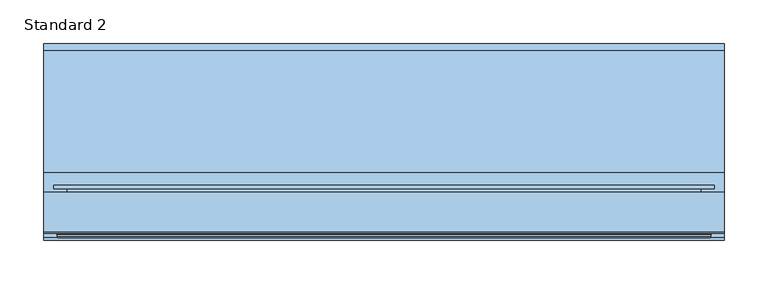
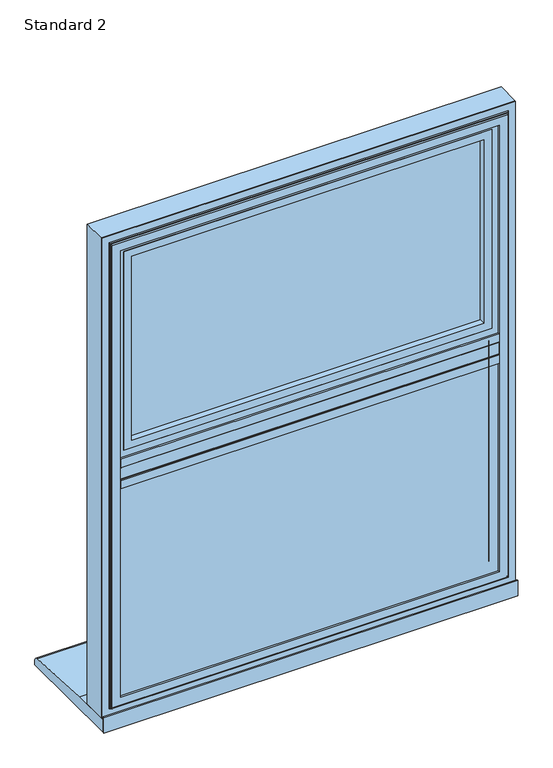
"""IFC4 building model written with IfcOpenShell, lengths in millimetres: window geometry, SMARTS_AlithermHeritage : Standard 2."""

from ifc_helpers import new_model, si_unit, point, frame, frame_2d, origin, place, context, project, spatial, polyline, circle_curve, ellipse_curve, trimmed, segment, composite_curve, outline, extrude, faceted_brep, source, transform, mapped, element, save
from ifc_brep_helpers import plane_surface, cylinder_surface, revolved_surface, advanced_brep


def standard_2_687e85b9(model_context):
    return source(origin(), model_context, "Body", "SolidModel", [
        extrude(outline(polyline([(372.3058544, 95.2798432), (372.3058544, 47.279476), (-372.3058544, 47.279476), (-372.3058544, 95.2798432), (372.3058544, 95.2798432)])), frame((0.0, 0.0, 1098.8058544), z_axis=(0.0, 0.0, 1.0), x_axis=(1.0, 0.0, 0.0)), (0.0, 0.0, 1.0), 27.3882911),
        extrude(outline(composite_curve([segment(polyline([(47.279476, 1083.5), (43.2798432, 1083.5), (43.2798432, 1099.5)]), True, "CONTINUOUS"), segment(trimmed(circle_curve(frame_2d((44.2798432, 1099.5)), 1.0), [point((43.2798432, 1099.5))], [point((44.2798432, 1100.5))], False, "CARTESIAN"), True, "CONTINUOUS"), segment(polyline([(44.2798432, 1100.5), (45.7798432, 1100.5), (45.7798432, 1124.5), (44.2798432, 1124.5)]), True, "CONTINUOUS"), segment(trimmed(circle_curve(frame_2d((44.2798432, 1125.5)), 1.0), [point((44.2798432, 1124.5))], [point((43.2798432, 1125.5))], False, "CARTESIAN"), True, "CONTINUOUS"), segment(polyline([(43.2798432, 1125.5), (43.2798432, 1141.5), (47.279476, 1141.5), (47.279476, 1083.5)]), True, "CONTINUOUS")], self_intersect=False)), frame((-357.0, 0.0, 0.0), z_axis=(1.0, 0.0, 0.0), x_axis=(0.0, 1.0, 0.0)), (0.0, 0.0, 1.0), 714.0),
        extrude(outline(polyline([(-367.0, 75.2798432), (367.0, 75.2798432), (367.0, 71.2798432), (-367.0, 71.2798432), (-367.0, 75.2798432)])), frame((0.0, 0.0, 658.0), z_axis=(0.0, 0.0, 1.0), x_axis=(1.0, 0.0, 0.0)), (0.0, 0.0, 1.0), 435.5),
        extrude(outline(polyline([(-367.0, 55.2798432), (367.0, 55.2798432), (367.0, 51.2798432), (-367.0, 51.2798432), (-367.0, 55.2798432)])), frame((0.0, 0.0, 658.0), z_axis=(0.0, 0.0, 1.0), x_axis=(1.0, 0.0, 0.0)), (0.0, 0.0, 1.0), 435.5),
        extrude(outline(polyline([(1093.5, -367.0), (658.0, -367.0), (658.0, 367.0), (1093.5, 367.0), (1093.5, -367.0)]), holes=[polyline([(1083.5, 357.0), (668.0, 357.0), (668.0, -357.0), (1083.5, -357.0), (1083.5, 357.0)])]), frame((0.0, 55.2798432, 0.0), z_axis=(0.0, 1.0, 0.0), x_axis=(0.0, 0.0, 1.0)), (0.0, 0.0, 1.0), 16.0),
        faceted_brep([(366.8148849, 95.2798432, 1093.3148849), (357.0, 78.2798098, 1083.5), (-357.0, 78.2798098, 1083.5), (-366.8148849, 95.2798432, 1093.3148849), (372.3702676, 78.2798098, 1098.8702676), (372.3702676, 95.2798432, 1098.8702676), (-372.3702676, 95.2798432, 1098.8702676), (-372.3702676, 78.2798098, 1098.8702676), (-372.3702676, 78.2798098, 652.6297324), (-372.3702676, 95.2798432, 652.6297324), (372.3702676, 95.2798432, 652.6297324), (372.3702676, 78.2798098, 652.6297324), (-366.8148849, 95.2798432, 658.1851151), (366.8148849, 95.2798432, 658.1851151), (357.0, 78.2798098, 668.0), (-357.0, 78.2798098, 668.0)], [[[0, 1, 2, 3]], [[4, 5, 6, 7]], [[8, 9, 10, 11]], [[5, 10, 9, 6], [3, 12, 13, 0]], [[7, 8, 11, 4], [1, 14, 15, 2]], [[3, 2, 15, 12]], [[7, 6, 9, 8]], [[12, 15, 14, 13]], [[13, 14, 1, 0]], [[11, 10, 5, 4]]]),
        extrude(outline(polyline([(1590.0, 390.0), (1590.0, -390.0), (635.0, -390.0), (635.0, 390.0), (1590.0, 390.0)]), holes=[polyline([(652.7000182, 372.2999818), (652.7000182, -372.2999818), (1572.2999818, -372.2999818), (1572.2999818, 372.2999818), (652.7000182, 372.2999818)])]), frame((0.0, 50.279857, 0.0), z_axis=(0.0, 1.0, 0.0), x_axis=(0.0, 0.0, 1.0)), (0.0, 0.0, 1.0), 44.9999962),
        advanced_brep(
        [(357.0, 43.2798432, 1557.0), (357.0, 47.2798432, 1557.0), (357.0, 47.2798432, 668.0), (357.0, 43.2798432, 668.0), (390.0, 50.279857, 1590.0), (390.0, 48.279857, 1590.0), (390.0, 48.279857, 635.0), (390.0, 50.279857, 635.0), (372.4999818, 43.2798432, 1572.4999818), (-372.4999818, 43.2798432, 1572.4999818), (-372.4999818, 43.2798432, 652.5000182), (372.4999818, 43.2798432, 652.5000182), (-357.0, 43.2798432, 668.0), (-357.0, 43.2798432, 1557.0), (-390.0, 50.279857, 1590.0), (-390.0, 48.279857, 1590.0), (-390.0, 50.279857, 635.0), (372.2999818, 50.279857, 1572.2999818), (-372.2999818, 50.279857, 1572.2999818), (-372.2999818, 50.279857, 652.7000182), (372.2999818, 50.279857, 652.7000182), (-357.0, 47.2798432, 1557.0), (-357.0, 47.2798432, 668.0), (-390.0, 48.279857, 635.0), (-372.2999818, 47.2798432, 1572.2999818), (372.2999818, 47.2798432, 1572.2999818), (372.2999818, 47.2798432, 652.7000182), (374.4999818, 46.779857, 650.5000182), (374.4999818, 45.2798432, 650.5000182), (-374.4999818, 45.2798432, 650.5000182), (-374.4999818, 46.779857, 650.5000182), (374.4999818, 46.779857, 1574.4999818), (374.4999818, 45.2798432, 1574.4999818), (-372.2999818, 47.2798432, 652.7000182), (-374.4999818, 45.2798432, 1574.4999818), (-374.4999818, 46.779857, 1574.4999818), (375.9999818, 48.279857, 1575.9999818), (375.9999818, 48.279857, 649.0000182), (-375.9999818, 48.279857, 649.0000182), (-375.9999818, 48.279857, 1575.9999818)],
        [
            (0, 1),
            (1, 2),
            (2, 3),
            (3, 0),
            (4, 5),
            (5, 6),
            (6, 7),
            (7, 4),
            (8, 9),
            (9, 10),
            (10, 11),
            (11, 8),
            (3, 12),
            (12, 13),
            (13, 0),
            (14, 15),
            (15, 5),
            (4, 14),
            (7, 16),
            (16, 14),
            (17, 18),
            (18, 19),
            (19, 20),
            (20, 17),
            (13, 21),
            (21, 1),
            (2, 22),
            (22, 12),
            (22, 21),
            (6, 23),
            (23, 16),
            (23, 15),
            (24, 18),
            (17, 25),
            (25, 24),
            (20, 26),
            (26, 25),
            (27, 28),
            (28, 29),
            (29, 30),
            (30, 27),
            (31, 32),
            (32, 28),
            (27, 31),
            (19, 33),
            (33, 26),
            (24, 33),
            (29, 34),
            (34, 35),
            (35, 30),
            (34, 32),
            (31, 35),
            (36, 31, ellipse_curve(frame((375.9999818, 46.779857, 1575.9999818), z_axis=(-0.7071067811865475, 0.0, 0.7071067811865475), x_axis=(-0.7071067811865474, 0.0, -0.7071067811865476)), 2.1213203, 1.5)),
            (27, 37, ellipse_curve(frame((375.9999818, 46.779857, 649.0000182), z_axis=(-0.7071067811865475, 0.0, -0.7071067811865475), x_axis=(0.7071067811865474, 0.0, -0.7071067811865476)), 2.1213203, 1.5)),
            (37, 36),
            (30, 38, ellipse_curve(frame((-375.9999818, 46.779857, 649.0000182), z_axis=(-0.7071067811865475, 0.0, 0.7071067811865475), x_axis=(-0.7071067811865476, 0.0, -0.7071067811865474)), 2.1213203, 1.5)),
            (38, 37),
            (35, 39, ellipse_curve(frame((-375.9999818, 46.779857, 1575.9999818), z_axis=(0.7071067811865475, 0.0, 0.7071067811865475), x_axis=(-0.7071067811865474, 0.0, 0.7071067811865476)), 2.1213203, 1.5)),
            (39, 38),
            (36, 39),
            (32, 8, ellipse_curve(frame((372.4999818, 45.2798432, 1572.4999818), z_axis=(0.7071067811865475, 0.0, -0.7071067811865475), x_axis=(0.7071067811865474, 0.0, 0.7071067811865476)), 2.8284271, 2.0)),
            (11, 28, ellipse_curve(frame((372.4999818, 45.2798432, 652.5000182), z_axis=(0.7071067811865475, 0.0, 0.7071067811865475), x_axis=(-0.7071067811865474, 0.0, 0.7071067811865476)), 2.8284271, 2.0)),
            (10, 29, ellipse_curve(frame((-372.4999818, 45.2798432, 652.5000182), z_axis=(0.7071067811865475, 0.0, -0.7071067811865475), x_axis=(0.7071067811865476, 0.0, 0.7071067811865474)), 2.8284271, 2.0)),
            (9, 34, ellipse_curve(frame((-372.4999818, 45.2798432, 1572.4999818), z_axis=(-0.7071067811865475, 0.0, -0.7071067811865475), x_axis=(0.7071067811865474, 0.0, -0.7071067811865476)), 2.8284271, 2.0)),
        ],
        [
            plane_surface(frame((357.0, 47.2798432, 1557.0), z_axis=(-1.0, 0.0, 0.0), x_axis=(0.0, 0.0, -1.0))),
            plane_surface(frame((390.0, 48.279857, 1590.0), z_axis=(1.0, 0.0, 0.0), x_axis=(0.0, 0.0, -1.0))),
            plane_surface(frame((-357.0, 43.2798432, 1557.0), z_axis=(0.0, -1.0, 0.0), x_axis=(1.0, 0.0, 0.0))),
            plane_surface(frame((-390.0, 48.279857, 1590.0), z_axis=(0.0, 0.0, 1.0), x_axis=(1.0, 0.0, 0.0))),
            plane_surface(frame((-390.0, 50.279857, 1590.0), z_axis=(0.0, 1.0, 0.0), x_axis=(1.0, 0.0, 0.0))),
            plane_surface(frame((-357.0, 47.2798432, 1557.0), z_axis=(0.0, 0.0, -1.0), x_axis=(1.0, 0.0, 0.0))),
            plane_surface(frame((357.0, 47.2798432, 668.0), z_axis=(0.0, 0.0, 1.0), x_axis=(-1.0, 0.0, 0.0))),
            plane_surface(frame((-357.0, 47.2798432, 668.0), z_axis=(1.0, 0.0, 0.0), x_axis=(0.0, 0.0, 1.0))),
            plane_surface(frame((390.0, 48.279857, 635.0), z_axis=(0.0, 0.0, -1.0), x_axis=(-1.0, 0.0, 0.0))),
            plane_surface(frame((-390.0, 48.279857, 635.0), z_axis=(-1.0, 0.0, 0.0), x_axis=(0.0, 0.0, 1.0))),
            plane_surface(frame((-372.2999818, 50.279857, 1572.2999818), z_axis=(0.0, 0.0, -1.0), x_axis=(1.0, 0.0, 0.0))),
            plane_surface(frame((372.2999818, 50.279857, 1572.2999818), z_axis=(-1.0, 0.0, 0.0), x_axis=(0.0, 0.0, -1.0))),
            plane_surface(frame((374.4999818, 45.2798432, 650.5000182), z_axis=(0.0, 0.0, -1.0), x_axis=(-1.0, 0.0, 0.0))),
            plane_surface(frame((374.4999818, 45.2798432, 1574.4999818), z_axis=(1.0, 0.0, 0.0), x_axis=(0.0, 0.0, -1.0))),
            plane_surface(frame((372.2999818, 50.279857, 652.7000182), z_axis=(0.0, 0.0, 1.0), x_axis=(-1.0, 0.0, 0.0))),
            plane_surface(frame((-372.2999818, 50.279857, 652.7000182), z_axis=(1.0, 0.0, 0.0), x_axis=(0.0, 0.0, 1.0))),
            plane_surface(frame((-374.4999818, 45.2798432, 650.5000182), z_axis=(-1.0, 0.0, 0.0), x_axis=(0.0, 0.0, 1.0))),
            plane_surface(frame((-372.2999818, 47.2798432, 1572.2999818), z_axis=(0.0, 1.0, 0.0), x_axis=(1.0, 0.0, 0.0))),
            plane_surface(frame((-374.4999818, 45.2798432, 1574.4999818), z_axis=(0.0, 0.0, 1.0), x_axis=(1.0, 0.0, 0.0))),
            revolved_surface(polyline([(374.4999818, 46.779857, 647.5000182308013), (374.4999818, 46.779857, 1577.4999817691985)]), (375.9999818, 46.779857, 1590.0), (0.0, 0.0, -1.0)),
            revolved_surface(polyline([(-377.4999817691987, 46.779857, 650.5000182), (377.49998176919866, 46.779857, 650.5000182)]), (390.0, 46.779857, 649.0000182), (-1.0, 0.0, 0.0)),
            revolved_surface(polyline([(-374.4999818, 46.779857, 1577.4999817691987), (-374.4999818, 46.779857, 647.5000182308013)]), (-375.9999818, 46.779857, 635.0), (0.0, 0.0, 1.0)),
            revolved_surface(polyline([(377.4999817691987, 46.779857, 1574.4999818), (-377.49998176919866, 46.779857, 1574.4999818)]), (-390.0, 46.779857, 1575.9999818), (1.0, 0.0, 0.0)),
            plane_surface(frame((-375.9999818, 48.279857, 1575.9999818), z_axis=(0.0, -1.0, 0.0), x_axis=(1.0, 0.0, 0.0))),
            cylinder_surface(frame((372.4999818, 45.2798432, 1590.0), z_axis=(0.0, 0.0, 1.0), x_axis=(-1.0, 0.0, 0.0)), 2.0),
            cylinder_surface(frame((390.0, 45.2798432, 652.5000182), z_axis=(1.0, 0.0, 0.0), x_axis=(0.0, 0.0, 1.0)), 2.0),
            cylinder_surface(frame((-372.4999818, 45.2798432, 635.0), z_axis=(0.0, 0.0, -1.0), x_axis=(1.0, 0.0, 0.0)), 2.0),
            cylinder_surface(frame((-390.0, 45.2798432, 1572.4999818), z_axis=(-1.0, 0.0, 0.0), x_axis=(0.0, 0.0, -1.0)), 2.0),
        ],
        [
            (0, [[1, 2, 3, 4]]),
            (1, [[5, 6, 7, 8]]),
            (2, [[9, 10, 11, 12], [13, 14, 15, -4]]),
            (3, [[16, 17, -5, 18]]),
            (4, [[19, 20, -18, -8], [21, 22, 23, 24]]),
            (5, [[25, 26, -1, -15]]),
            (6, [[-3, 27, 28, -13]]),
            (7, [[-28, 29, -25, -14]]),
            (8, [[-7, 30, 31, -19]]),
            (9, [[-31, 32, -16, -20]]),
            (10, [[33, -21, 34, 35]]),
            (11, [[-34, -24, 36, 37]]),
            (12, [[38, 39, 40, 41]]),
            (13, [[42, 43, -38, 44]]),
            (14, [[-36, -23, 45, 46]]),
            (15, [[-45, -22, -33, 47]]),
            (16, [[-40, 48, 49, 50]]),
            (17, [[-46, -47, -35, -37], [-26, -29, -27, -2]]),
            (18, [[-49, 51, -42, 52]]),
            (19, [[53, -44, 54, 55]]),
            (20, [[-54, -41, 56, 57]]),
            (21, [[-56, -50, 58, 59]]),
            (22, [[-58, -52, -53, 60]]),
            (23, [[-17, -32, -30, -6], [-57, -59, -60, -55]]),
            (24, [[61, -12, 62, -43]]),
            (25, [[-62, -11, 63, -39]]),
            (26, [[-63, -10, 64, -48]]),
            (27, [[-64, -9, -61, -51]]),
        ],
    ),
        extrude(outline(polyline([(-343.5, 89.2798432), (343.5, 89.2798432), (343.5, 85.2798432), (-343.5, 85.2798432), (-343.5, 89.2798432)])), frame((0.0, 0.0, 1155.0), z_axis=(0.0, 0.0, 1.0), x_axis=(1.0, 0.0, 0.0)), (0.0, 0.0, 1.0), 388.5),
        extrude(outline(polyline([(-343.5, 69.2798432), (343.5, 69.2798432), (343.5, 65.2798432), (-343.5, 65.2798432), (-343.5, 69.2798432)])), frame((0.0, 0.0, 1155.0), z_axis=(0.0, 0.0, 1.0), x_axis=(1.0, 0.0, 0.0)), (0.0, 0.0, 1.0), 388.5),
        extrude(outline(polyline([(1543.5, -343.5), (1155.0, -343.5), (1155.0, 343.5), (1543.5, 343.5), (1543.5, -343.5)]), holes=[polyline([(1533.5, 333.5), (1165.0, 333.5), (1165.0, -333.5), (1533.5, -333.5), (1533.5, 333.5)])]), frame((0.0, 69.2798432, 0.0), z_axis=(0.0, 1.0, 0.0), x_axis=(0.0, 0.0, 1.0)), (0.0, 0.0, 1.0), 16.0),
        extrude(outline(polyline([(1547.0052956, -347.0052956), (1151.4947044, -347.0052956), (1151.4947044, 347.0052956), (1547.0052956, 347.0052956), (1547.0052956, -347.0052956)]), holes=[polyline([(1532.0, 332.0), (1166.5, 332.0), (1166.5, -332.0), (1532.0, -332.0), (1532.0, 332.0)])]), frame((0.0, 51.2798432, 0.0), z_axis=(0.0, 1.0, 0.0), x_axis=(0.0, 0.0, 1.0)), (0.0, 0.0, 1.0), 11.3),
        extrude(outline(polyline([(1135.8548042, -362.6451958), (1135.8548042, 362.6451958), (1562.6451958, 362.6451958), (1562.6451958, -362.6451958), (1135.8548042, -362.6451958)]), holes=[polyline([(1547.0, -347.0), (1547.0, 347.0), (1151.5, 347.0), (1151.5, -347.0), (1547.0, -347.0)])]), frame((0.0, 51.2798432, 0.0), z_axis=(0.0, 1.0, 0.0), x_axis=(0.0, 0.0, 1.0)), (0.0, 0.0, 1.0), 41.6),
        advanced_brep(
        [(-332.0, 98.0798432, 1532.0), (-332.0, 92.8798432, 1532.0), (-332.0, 92.8798432, 1166.5), (-332.0, 98.0798432, 1166.5), (332.0, 92.8798432, 1166.5), (332.0, 98.0798432, 1166.5), (332.0, 92.8798432, 1532.0), (332.0, 98.0798432, 1532.0), (-378.2, 99.2798432, 1578.2), (-378.2, 103.2798432, 1578.2), (-378.2, 103.2798432, 1120.3), (-378.2, 99.2798432, 1120.3), (378.2, 103.2798432, 1120.3), (378.2, 99.2798432, 1120.3), (378.2, 103.2798432, 1578.2), (378.2, 99.2798432, 1578.2), (-363.1467657, 99.2798432, 1563.1467657), (363.1467657, 99.2798432, 1563.1467657), (363.1467657, 99.2798432, 1135.3532343), (-363.1467657, 99.2798432, 1135.3532343), (-349.2, 103.2798432, 1149.3), (349.2, 103.2798432, 1149.3), (349.2, 103.2798432, 1549.2), (-349.2, 103.2798432, 1549.2), (-363.1467657, 92.8798432, 1563.1467657), (-363.1467657, 92.8798432, 1135.3532343), (363.1467657, 92.8798432, 1135.3532343), (363.1467657, 92.8798432, 1563.1467657), (-347.2, 101.2798432, 1547.2), (-347.2, 100.0798432, 1547.2), (-347.2, 100.0798432, 1151.3), (-347.2, 101.2798432, 1151.3), (-345.2, 98.0798432, 1545.2), (-345.2, 98.0798432, 1153.3), (347.2, 100.0798432, 1151.3), (347.2, 101.2798432, 1151.3), (345.2, 98.0798432, 1153.3), (347.2, 100.0798432, 1547.2), (347.2, 101.2798432, 1547.2), (345.2, 98.0798432, 1545.2)],
        [
            (0, 1),
            (1, 2),
            (2, 3),
            (3, 0),
            (2, 4),
            (4, 5),
            (5, 3),
            (4, 6),
            (6, 7),
            (7, 5),
            (6, 1),
            (0, 7),
            (8, 9),
            (9, 10),
            (10, 11),
            (11, 8),
            (10, 12),
            (12, 13),
            (13, 11),
            (12, 14),
            (14, 15),
            (15, 13),
            (15, 8),
            (16, 17),
            (17, 18),
            (18, 19),
            (19, 16),
            (14, 9),
            (20, 21),
            (21, 22),
            (22, 23),
            (23, 20),
            (24, 16),
            (19, 25),
            (25, 24),
            (18, 26),
            (26, 25),
            (17, 27),
            (27, 26),
            (27, 24),
            (28, 29),
            (29, 30),
            (30, 31),
            (31, 28),
            (29, 32, ellipse_curve(frame((-345.2, 100.0798432, 1545.2), z_axis=(0.7071067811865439, 0.0, 0.7071067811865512), x_axis=(0.7071067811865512, 0.0, -0.7071067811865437)), 2.8284271, 2.0)),
            (32, 33),
            (33, 30, ellipse_curve(frame((-345.2, 100.0798432, 1153.3), z_axis=(0.7071067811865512, 0.0, -0.7071067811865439), x_axis=(-0.7071067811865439, 0.0, -0.707106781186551)), 2.8284271, 2.0)),
            (30, 34),
            (34, 35),
            (35, 31),
            (33, 36),
            (36, 34, ellipse_curve(frame((345.2, 100.0798432, 1153.3), z_axis=(0.7071067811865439, 0.0, 0.7071067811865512), x_axis=(0.707106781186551, 0.0, -0.7071067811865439)), 2.8284271, 2.0)),
            (34, 37),
            (37, 38),
            (38, 35),
            (36, 39),
            (39, 37, ellipse_curve(frame((345.2, 100.0798432, 1545.2), z_axis=(-0.7071067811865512, 0.0, 0.7071067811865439), x_axis=(0.7071067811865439, 0.0, 0.707106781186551)), 2.8284271, 2.0)),
            (32, 39),
            (37, 29),
            (28, 38),
            (23, 28, ellipse_curve(frame((-349.2, 101.2798432, 1549.2), z_axis=(-0.7071067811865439, 0.0, -0.7071067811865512), x_axis=(-0.7071067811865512, 0.0, 0.7071067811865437)), 2.8284271, 2.0)),
            (31, 20, ellipse_curve(frame((-349.2, 101.2798432, 1149.3), z_axis=(-0.7071067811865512, 0.0, 0.7071067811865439), x_axis=(0.7071067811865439, 0.0, 0.707106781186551)), 2.8284271, 2.0)),
            (35, 21, ellipse_curve(frame((349.2, 101.2798432, 1149.3), z_axis=(-0.7071067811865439, 0.0, -0.7071067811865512), x_axis=(-0.707106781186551, 0.0, 0.7071067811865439)), 2.8284271, 2.0)),
            (38, 22, ellipse_curve(frame((349.2, 101.2798432, 1549.2), z_axis=(0.7071067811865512, 0.0, -0.7071067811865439), x_axis=(-0.7071067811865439, 0.0, -0.707106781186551)), 2.8284271, 2.0)),
        ],
        [
            plane_surface(frame((-332.0, 92.8798432, 1532.0), z_axis=(1.0, 0.0, 0.0), x_axis=(0.0, 0.0, -1.0))),
            plane_surface(frame((-332.0, 92.8798432, 1166.5), z_axis=(0.0, 0.0, 1.0), x_axis=(1.0, 0.0, 0.0))),
            plane_surface(frame((332.0, 92.8798432, 1166.5), z_axis=(-1.0, 0.0, 0.0), x_axis=(0.0, 0.0, 1.0))),
            plane_surface(frame((332.0, 92.8798432, 1532.0), z_axis=(0.0, 0.0, -1.0), x_axis=(-1.0, 0.0, 0.0))),
            plane_surface(frame((-378.2, 103.2798432, 1578.2), z_axis=(-1.0, 0.0, 0.0), x_axis=(0.0, 0.0, -1.0))),
            plane_surface(frame((-378.2, 103.2798432, 1120.3), z_axis=(0.0, 0.0, -1.0), x_axis=(1.0, 0.0, 0.0))),
            plane_surface(frame((378.2, 103.2798432, 1120.3), z_axis=(1.0, 0.0, 0.0), x_axis=(0.0, 0.0, 1.0))),
            plane_surface(frame((378.2, 99.2798432, 1578.2), z_axis=(0.0, -1.0, 0.0), x_axis=(-1.0, 0.0, 0.0))),
            plane_surface(frame((378.2, 103.2798432, 1578.2), z_axis=(0.0, 0.0, 1.0), x_axis=(-1.0, 0.0, 0.0))),
            plane_surface(frame((349.2, 103.2798432, 1549.2), z_axis=(0.0, 1.0, 0.0), x_axis=(-1.0, 0.0, 0.0))),
            plane_surface(frame((-363.1467657, 99.2798432, 1563.1467657), z_axis=(-1.0, 0.0, 0.0), x_axis=(0.0, 0.0, -1.0))),
            plane_surface(frame((-363.1467657, 99.2798432, 1135.3532343), z_axis=(0.0, 0.0, -1.0), x_axis=(1.0, 0.0, 0.0))),
            plane_surface(frame((363.1467657, 99.2798432, 1135.3532343), z_axis=(1.0, 0.0, 0.0), x_axis=(0.0, 0.0, 1.0))),
            plane_surface(frame((363.1467657, 92.8798432, 1563.1467657), z_axis=(0.0, -1.0, 0.0), x_axis=(-1.0, 0.0, 0.0))),
            plane_surface(frame((363.1467657, 99.2798432, 1563.1467657), z_axis=(0.0, 0.0, 1.0), x_axis=(-1.0, 0.0, 0.0))),
            plane_surface(frame((-347.2, 100.0798432, 1547.2), z_axis=(1.0, 0.0, 0.0), x_axis=(0.0, 0.0, -1.0))),
            revolved_surface(polyline([(-347.2, 100.0798432, 1151.3), (-347.2, 100.0798432, 1547.2)]), (-345.2, 100.0798432, 1557.0), (0.0, 0.0, -1.0)),
            plane_surface(frame((-347.2, 100.0798432, 1151.3), z_axis=(0.0, 0.0, 1.0), x_axis=(1.0, 0.0, 0.0))),
            revolved_surface(polyline([(347.20000000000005, 100.0798432, 1151.3), (-347.2, 100.0798432, 1151.3)]), (-357.0, 100.0798432, 1153.3), (1.0, 0.0, 0.0)),
            plane_surface(frame((347.2, 100.0798432, 1151.3), z_axis=(-1.0, 0.0, 0.0), x_axis=(0.0, 0.0, 1.0))),
            revolved_surface(polyline([(347.2, 100.0798432, 1547.2), (347.2, 100.0798432, 1151.3)]), (345.2, 100.0798432, 1141.5), (0.0, 0.0, 1.0)),
            plane_surface(frame((332.0, 98.0798432, 1532.0), z_axis=(0.0, 1.0, 0.0), x_axis=(-1.0, 0.0, 0.0))),
            plane_surface(frame((347.2, 100.0798432, 1547.2), z_axis=(0.0, 0.0, -1.0), x_axis=(-1.0, 0.0, 0.0))),
            revolved_surface(polyline([(-347.20000000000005, 100.0798432, 1547.2), (347.2, 100.0798432, 1547.2)]), (357.0, 100.0798432, 1545.2), (-1.0, 0.0, 0.0)),
            cylinder_surface(frame((-349.2, 101.2798432, 1557.0), z_axis=(0.0, 0.0, 1.0), x_axis=(-1.0, 0.0, 0.0)), 2.0),
            cylinder_surface(frame((-357.0, 101.2798432, 1149.3), z_axis=(-1.0, 0.0, 0.0), x_axis=(0.0, 0.0, -1.0)), 2.0),
            cylinder_surface(frame((349.2, 101.2798432, 1141.5), z_axis=(0.0, 0.0, -1.0), x_axis=(1.0, 0.0, 0.0)), 2.0),
            cylinder_surface(frame((357.0, 101.2798432, 1549.2), z_axis=(1.0, 0.0, 0.0), x_axis=(0.0, 0.0, 1.0)), 2.0),
        ],
        [
            (0, [[1, 2, 3, 4]]),
            (1, [[-3, 5, 6, 7]]),
            (2, [[-6, 8, 9, 10]]),
            (3, [[-9, 11, -1, 12]]),
            (4, [[13, 14, 15, 16]]),
            (5, [[-15, 17, 18, 19]]),
            (6, [[-18, 20, 21, 22]]),
            (7, [[-19, -22, 23, -16], [24, 25, 26, 27]]),
            (8, [[-21, 28, -13, -23]]),
            (9, [[-28, -20, -17, -14], [29, 30, 31, 32]]),
            (10, [[33, -27, 34, 35]]),
            (11, [[-34, -26, 36, 37]]),
            (12, [[-36, -25, 38, 39]]),
            (13, [[-37, -39, 40, -35], [-11, -8, -5, -2]]),
            (14, [[-38, -24, -33, -40]]),
            (15, [[41, 42, 43, 44]]),
            (16, [[45, 46, 47, -42]]),
            (17, [[-43, 48, 49, 50]]),
            (18, [[-47, 51, 52, -48]]),
            (19, [[-49, 53, 54, 55]]),
            (20, [[-52, 56, 57, -53]]),
            (21, [[58, -56, -51, -46], [-7, -10, -12, -4]]),
            (22, [[-54, 59, -41, 60]]),
            (23, [[-57, -58, -45, -59]]),
            (24, [[61, -44, 62, -32]]),
            (25, [[-62, -50, 63, -29]]),
            (26, [[-63, -55, 64, -30]]),
            (27, [[-64, -60, -61, -31]]),
        ],
    ),
        extrude(outline(polyline([(390.0, 43.2798432), (390.0, 40.7798432), (-390.0, 40.7798432), (-390.0, 43.2798432), (390.0, 43.2798432)])), frame((0.0, 0.0, 610.0), z_axis=(0.0, 0.0, 1.0), x_axis=(1.0, 0.0, 0.0)), (0.0, 0.0, 1.0), 31.0),
        extrude(outline(composite_curve([segment(polyline([(265.7798432, 610.0), (43.2798432, 610.0), (43.2798432, 635.0), (118.7798432, 635.0), (258.4770891, 625.9276664)]), True, "CONTINUOUS"), segment(trimmed(circle_curve(frame_2d((257.7798432, 617.9581088)), 8.0), [point((258.4770891, 625.9276664))], [point((265.7798432, 617.9581088))], False, "CARTESIAN"), True, "CONTINUOUS"), segment(polyline([(265.7798432, 617.9581088), (265.7798432, 610.0)]), True, "CONTINUOUS")], self_intersect=False)), frame((-390.0, 0.0, 0.0), z_axis=(1.0, 0.0, 0.0), x_axis=(0.0, 1.0, 0.0)), (0.0, 0.0, 1.0), 780.0),
    ])


if __name__ == "__main__":
    model = new_model("IFC4")
    model_context = context("Model", 3, world=origin())
    ifc_project = project(units=[si_unit("LENGTHUNIT", "METRE", prefix="MILLI")], contexts=[model_context])
    site = spatial("IfcSite", under=ifc_project)
    building = spatial("IfcBuilding", under=site)
    placement = place(None, origin())
    standard_2_shape = standard_2_687e85b9(model_context)
    element("IfcWindow", 1, ObjectType="SMARTS_AlithermHeritage : Standard 2", at=placement, inside=building, context=model_context, shape_type="MappedRepresentation", body=[
        mapped(standard_2_shape, transform((0.0, 0.0, 0.0), x_axis=(1.0, 0.0, 0.0), y_axis=(0.0, 1.0, 0.0), z_axis=(0.0, 0.0, 1.0))),
    ])
    save(model, "model.ifc")
